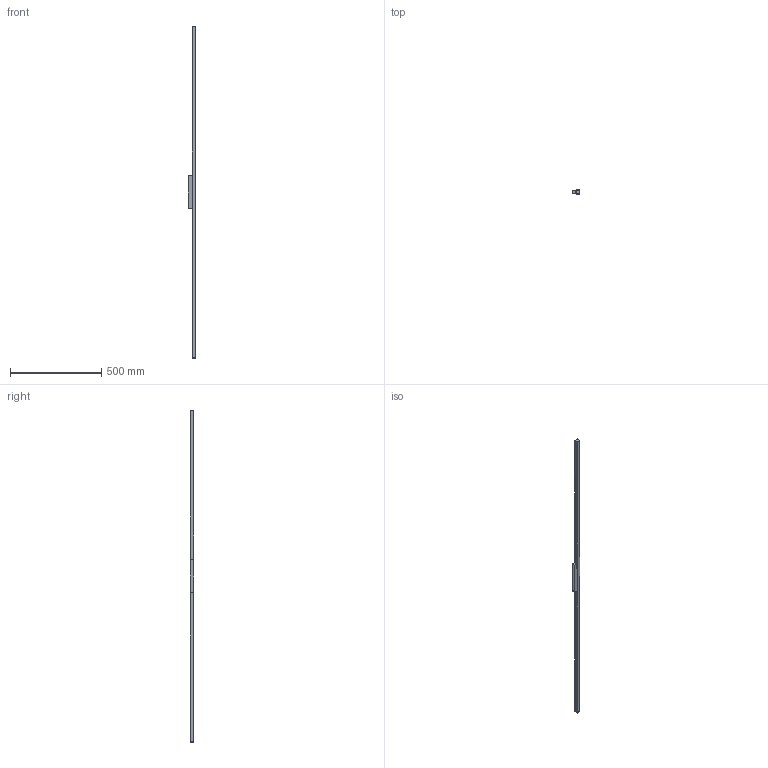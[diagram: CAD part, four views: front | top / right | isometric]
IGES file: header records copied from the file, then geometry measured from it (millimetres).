
Start section: SolidWorks IGES file using analytic representation for surfaces
Global section: file name: C:\Users\tungari.NEMOLIGHTING\Desktop\3D\WALL_CEILING\3D_LINESCAPES182_WALL_CEILING\DEF\3D_LINESCAPES182_WALL_CEILING.IGS; native system: SolidWorks 2016; preprocessor: SolidWorks 2016; author: tungari; date: 180315.135744; units: millimetre
Bounding box: 40 x 20.03 x 1820 mm (x, y, z)
Surface area: 263143.2 mm2 (no closed solid volume)
Topology: 0 solids, 0 shells, 86 faces, 518 edges, 518 vertices
Faces by surface type: bspline 68, revolution 18
